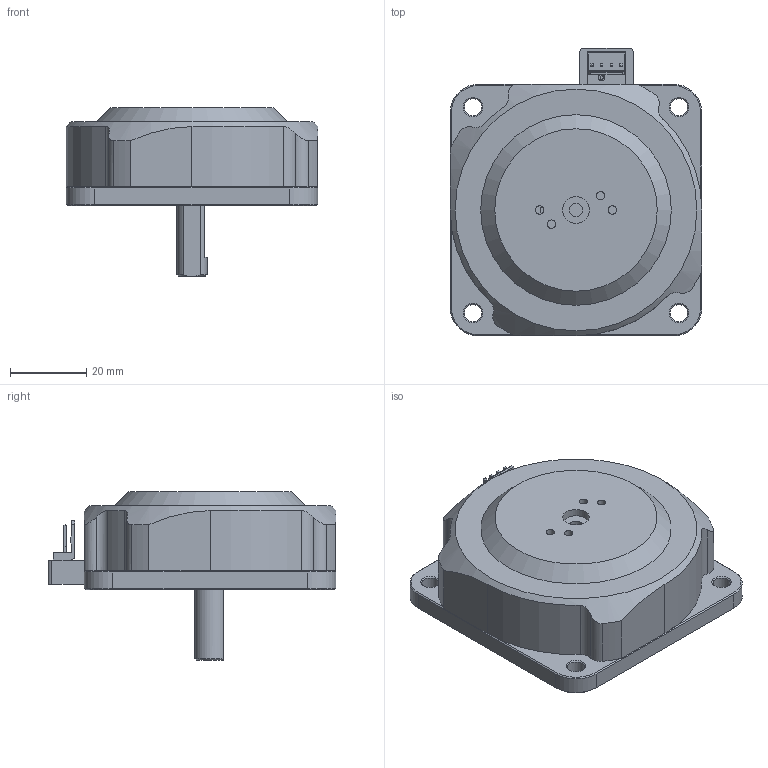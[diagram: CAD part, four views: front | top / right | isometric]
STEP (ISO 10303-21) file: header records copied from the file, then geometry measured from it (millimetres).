
FILE_DESCRIPTION (( 'STEP AP214' ), '1' );
FILE_NAME ('Assem_PSM60N_A_2024_Ver6_Provide.STEP', '2024-10-28T02:38:37', ( '' ), ( '' ), 'SwSTEP 2.0', 'SolidWorks 2024', '' );
FILE_SCHEMA (( 'AUTOMOTIVE_DESIGN' ));
Length unit declared in the file: millimetre
Products named in the file (16): Molex_5045_Pin; 6800ZZ_3; PSM60_Non_Magnetic_Base_Ver3.8; 6800ZZ_19; +sara_M3-12_KJ; 6800ZZ_14; PSM60_SN_Shaft_F8_F6_Ver2.3_Plus_Main; Assem_Molex_5045_04A; +teitou_M2.6-6_KJ; Terminal_Plate_Ver1.2; Terminal_Cover_Ver2.1; 6800_Ceramic; 6800ZZ_17; Assem_PSM60N_A_2024_Ver6_Provide; Molex_5045_04A_Base; PSM60_Case_Ver3.3
Assembly tree (36 placements, depth 3):
  Assem_PSM60N_A_2024_Ver6_Provide
    PSM60_SN_Shaft_F8_F6_Ver2.3_Plus_Main
    Terminal_Plate_Ver1.2
    PSM60_Case_Ver3.3
    +teitou_M2.6-6_KJ  x6
    +sara_M3-12_KJ  x4
    Assem_Molex_5045_04A
      Molex_5045_04A_Base
      Molex_5045_Pin  x4
    Terminal_Cover_Ver2.1
    6800_Ceramic
      6800ZZ_3  x10
      6800ZZ_14  x2
      6800ZZ_17
      6800ZZ_19
    PSM60_Non_Magnetic_Base_Ver3.8
Bounding box: 66 x 75.5 x 44.3 mm (x, y, z)
Volume: 46129.7 mm3; surface area: 32215.8 mm2
Topology: 38 solids, 38 shells, 695 faces, 1783 edges, 1156 vertices
Faces by surface type: plane 387, cylinder 176, cone 81, sphere 20, bspline 18, torus 13
Full cylindrical faces by diameter (mm): 0.161 x4, 0.5 x4, 0.9 x1, 1.6 x1, 1.7 x1, 2.1 x1, 2.2 x12, 2.6 x10, 2.8 x3, 3 x4, 3.2 x5, 3.4 x1, 4.5 x4, 6 x4, 6.5 x4, 7 x1, 8 x1, 10 x2, 12 x1, 19 x2, 20 x1, 22 x1, 26 x2, 41.1 x1, 62 x1
Entity records: 14912 total; most frequent: CARTESIAN_POINT 2614, DIRECTION 2303, ORIENTED_EDGE 2012, EDGE_CURVE 1006, AXIS2_PLACEMENT_3D 866, VERTEX_POINT 707, EDGE_LOOP 629, LINE 571
